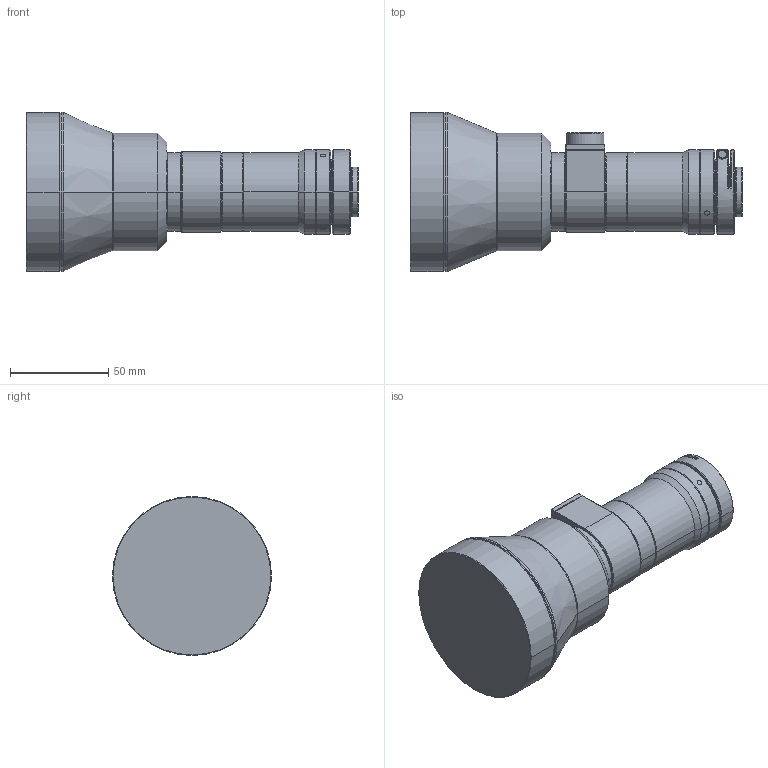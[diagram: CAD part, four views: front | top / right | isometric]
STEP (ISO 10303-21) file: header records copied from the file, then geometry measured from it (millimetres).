
FILE_DESCRIPTION((''),'2;1');
FILE_NAME('OPT-HP03-110C-F6_5_SW0001','2024-04-27T10:33:05',('李亦'),(''),'CREO PARAMETRIC BY PTC INC, 2020354','CREO PARAMETRIC BY PTC INC, 2020354','');
FILE_SCHEMA(('AUTOMOTIVE_DESIGN { 1 0 10303 214 1 1 1 1 }'));
Length unit declared in the file: millimetre
Products named in the file (1): OPT-HP03-110C-F6_5_SW0001
Bounding box: 169.13 x 81 x 81 mm (x, y, z)
Volume: 404266.2 mm3; surface area: 41990.2 mm2
Topology: 1 solids, 1 shells, 184 faces, 426 edges, 259 vertices
Faces by surface type: cylinder 67, plane 63, cone 54
Entity records: 6874 total; most frequent: CARTESIAN_POINT 2334, DIRECTION 937, ORIENTED_EDGE 852, EDGE_CURVE 426, AXIS2_PLACEMENT_3D 360, VERTEX_POINT 259, VECTOR 217, LINE 217
